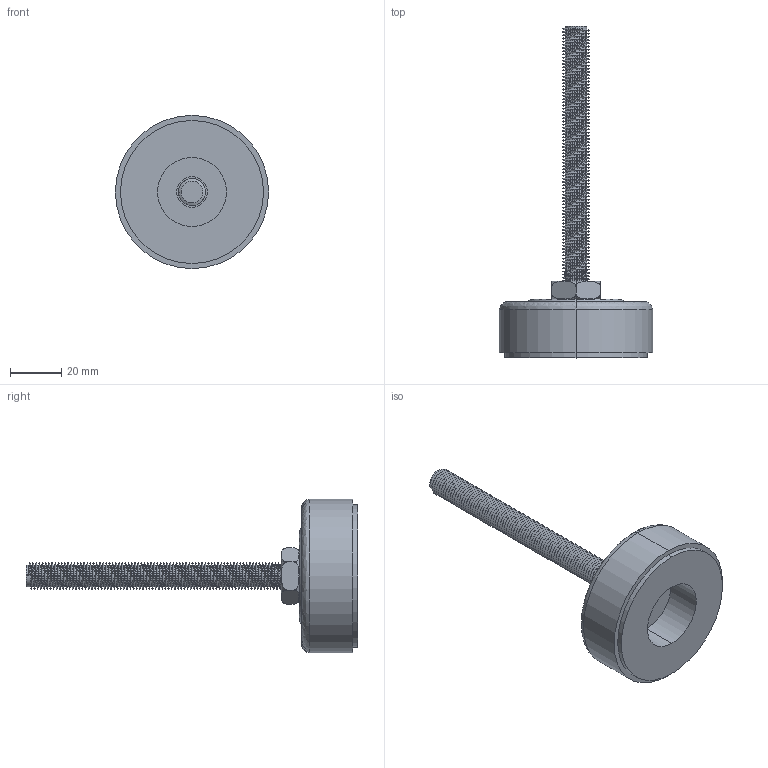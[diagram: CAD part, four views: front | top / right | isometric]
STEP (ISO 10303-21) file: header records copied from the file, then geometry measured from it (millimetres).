
FILE_DESCRIPTION (( 'STEP AP203' ), '1' );
FILE_NAME ('DY-D6012100S.STEP', '2021-06-25T06:33:49', ( '' ), ( '' ), 'SwSTEP 2.0', 'SolidWorks 2017', '' );
FILE_SCHEMA (( 'CONFIG_CONTROL_DESIGN' ));
Length unit declared in the file: millimetre
Products named in the file (1): DY-D6012100S
Bounding box: 60 x 130 x 60 mm (x, y, z)
Volume: 62503.9 mm3; surface area: 18467.7 mm2
Topology: 2 solids, 2 shells, 211 faces, 600 edges, 398 vertices
Faces by surface type: cylinder 181, plane 18, bspline 10, cone 2
Entity records: 14423 total; most frequent: CARTESIAN_POINT 9945, ORIENTED_EDGE 1200, DIRECTION 668, EDGE_CURVE 600, VERTEX_POINT 398, AXIS2_PLACEMENT_3D 236, EDGE_LOOP 218, ADVANCED_FACE 211
